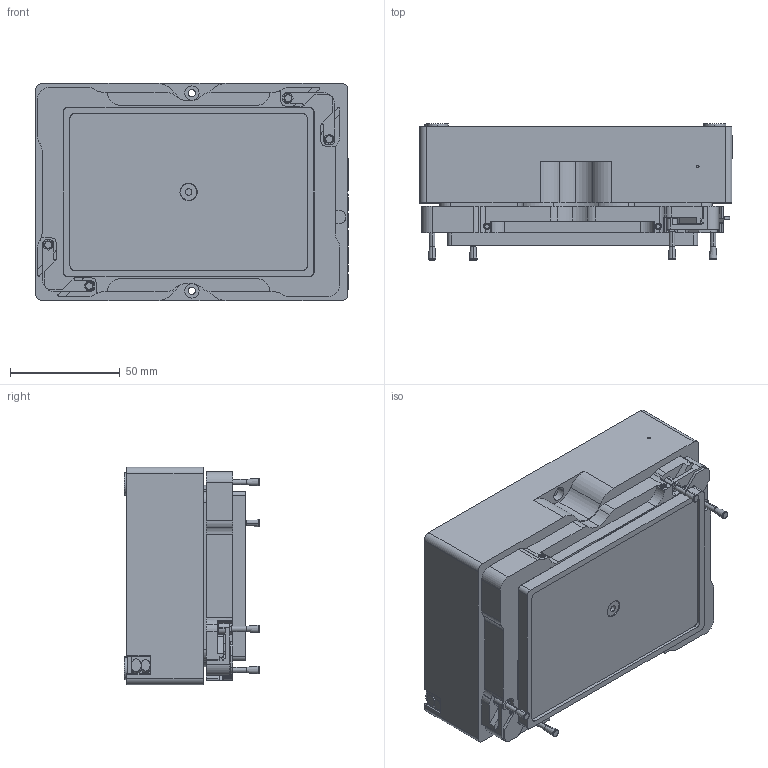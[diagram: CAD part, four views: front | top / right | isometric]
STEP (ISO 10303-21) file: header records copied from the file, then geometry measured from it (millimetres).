
FILE_DESCRIPTION (( 'STEP AP214' ), '1' );
FILE_NAME ('2016-0517-00_external_use.STEP', '2018-03-19T12:27:52', ( '' ), ( '' ), 'SwSTEP 2.0', 'SolidWorks 2017', '' );
FILE_SCHEMA (( 'AUTOMOTIVE_DESIGN' ));
Length unit declared in the file: millimetre
Products named in the file (1): 2016-0517-00_external_use
Bounding box: 142.1 x 61.8 x 99 mm (x, y, z)
Volume: 652756 mm3; surface area: 79121.6 mm2
Topology: 33 solids, 33 shells, 1576 faces, 4195 edges, 2697 vertices
Faces by surface type: cylinder 596, plane 585, cone 272, bspline 123
Entity records: 65751 total; most frequent: CARTESIAN_POINT 16187, ORIENTED_EDGE 8354, DIRECTION 7480, EDGE_CURVE 4177, VERTEX_POINT 2697, AXIS2_PLACEMENT_3D 2586, LINE 2308, VECTOR 2308
